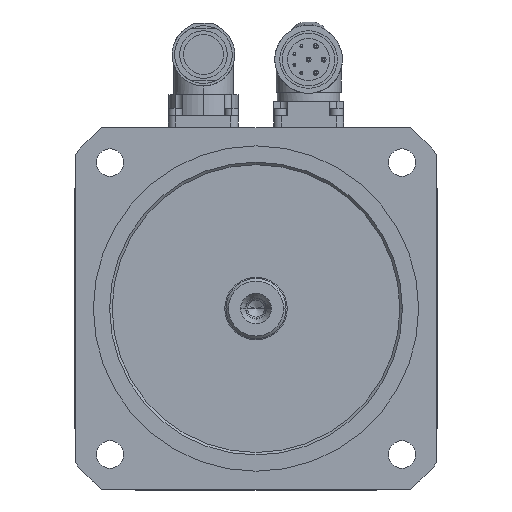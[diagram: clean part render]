
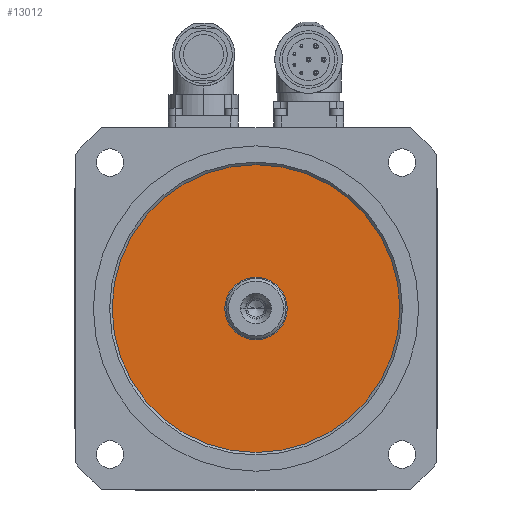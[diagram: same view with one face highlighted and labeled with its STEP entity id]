
A CAD part, left-side view. The second image highlights one B-rep face of the part: STEP entity #13012.
In plain terms, the highlighted planar face has unit normal (-1, 0, 0).
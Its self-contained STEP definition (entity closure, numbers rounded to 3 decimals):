
#604=CARTESIAN_POINT('',(1.5,0.,0.));
#605=DIRECTION('',(-1.,0.,0.));
#606=DIRECTION('',(0.,-1.,0.));
#607=AXIS2_PLACEMENT_3D('',#604,#605,#606);
#612=CARTESIAN_POINT('',(1.5,0.,0.));
#613=DIRECTION('',(-1.,0.,0.));
#614=DIRECTION('',(0.,1.,0.));
#615=AXIS2_PLACEMENT_3D('',#612,#613,#614);
#620=CARTESIAN_POINT('',(1.5,0.,0.));
#621=DIRECTION('',(1.,0.,0.));
#622=DIRECTION('',(0.,-1.,0.));
#623=AXIS2_PLACEMENT_3D('',#620,#621,#622);
#628=CARTESIAN_POINT('',(1.5,0.,0.));
#629=DIRECTION('',(1.,0.,0.));
#630=DIRECTION('',(0.,1.,0.));
#631=AXIS2_PLACEMENT_3D('',#628,#629,#630);
#11326=CARTESIAN_POINT('',(1.5,-12.5,0.));
#11327=CARTESIAN_POINT('',(1.5,12.5,0.));
#11328=VERTEX_POINT('',#11326);
#11329=VERTEX_POINT('',#11327);
#11685=CARTESIAN_POINT('',(1.5,57.5,0.));
#11686=CARTESIAN_POINT('',(1.5,-57.5,0.));
#11687=VERTEX_POINT('',#11685);
#11688=VERTEX_POINT('',#11686);
#12995=CARTESIAN_POINT('',(1.5,0.,0.));
#12996=DIRECTION('',(-1.,0.,0.));
#12997=DIRECTION('',(0.,-1.,0.));
#12998=AXIS2_PLACEMENT_3D('',#12995,#12996,#12997);
#12999=PLANE('',#12998);
#13001=ORIENTED_EDGE('',*,*,#13000,.F.);
#13003=ORIENTED_EDGE('',*,*,#13002,.F.);
#13004=EDGE_LOOP('',(#13001,#13003));
#13005=FACE_OUTER_BOUND('',#13004,.F.);
#13007=ORIENTED_EDGE('',*,*,#13006,.F.);
#13009=ORIENTED_EDGE('',*,*,#13008,.F.);
#13010=EDGE_LOOP('',(#13007,#13009));
#13011=FACE_BOUND('',#13010,.F.);
#608=CIRCLE('',#607,57.5);
#616=CIRCLE('',#615,57.5);
#624=CIRCLE('',#623,12.5);
#632=CIRCLE('',#631,12.5);
#13000=EDGE_CURVE('',#11688,#11687,#608,.T.);
#13002=EDGE_CURVE('',#11687,#11688,#616,.T.);
#13006=EDGE_CURVE('',#11328,#11329,#624,.T.);
#13008=EDGE_CURVE('',#11329,#11328,#632,.T.);
#13012=ADVANCED_FACE('',(#13005,#13011),#12999,.T.);
